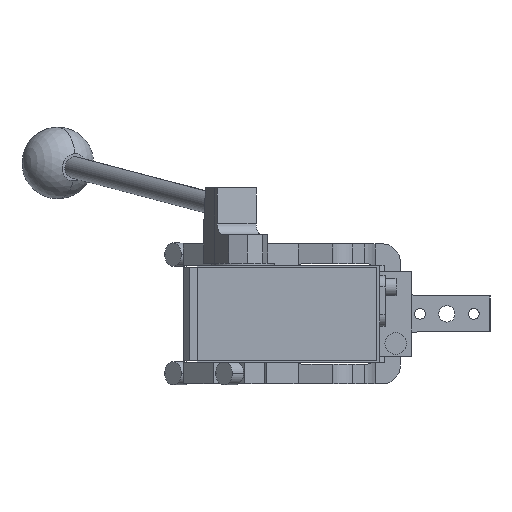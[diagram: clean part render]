
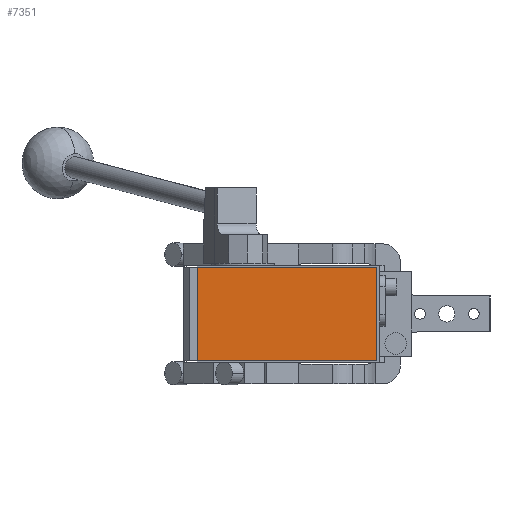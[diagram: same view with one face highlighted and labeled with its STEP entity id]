
A CAD part, front view. The second image highlights one B-rep face of the part: STEP entity #7351.
In plain terms, the highlighted planar face has unit normal (0, -1, 0).
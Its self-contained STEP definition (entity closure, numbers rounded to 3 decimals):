
#184 = LINE ( 'NONE', #2658, #13500 ) ;
#526 = ORIENTED_EDGE ( 'NONE', *, *, #8271, .T. ) ;
#1024 = DIRECTION ( 'NONE',  ( 1., 0., 0. ) ) ;
#1027 = CARTESIAN_POINT ( 'NONE',  ( -19., -286.5, 26. ) ) ;
#2658 = CARTESIAN_POINT ( 'NONE',  ( -19., -286.5, 26. ) ) ;
#2806 = CARTESIAN_POINT ( 'NONE',  ( 0., -286.5, 0. ) ) ;
#4075 = EDGE_CURVE ( 'NONE', #6944, #4376, #5616, .T. ) ;
#4171 = CARTESIAN_POINT ( 'NONE',  ( 81., -286.5, -26. ) ) ;
#4376 = VERTEX_POINT ( 'NONE', #5425 ) ;
#4424 = CARTESIAN_POINT ( 'NONE',  ( -19., -286.5, -26. ) ) ;
#4971 = VECTOR ( 'NONE', #1024, 1000. ) ;
#5205 = FACE_OUTER_BOUND ( 'NONE', #10231, .T. ) ;
#5425 = CARTESIAN_POINT ( 'NONE',  ( 81., -286.5, 26. ) ) ;
#5616 = LINE ( 'NONE', #11297, #14981 ) ;
#6123 = CARTESIAN_POINT ( 'NONE',  ( -19., -286.5, 26. ) ) ;
#6424 = EDGE_CURVE ( 'NONE', #4376, #14206, #184, .T. ) ;
#6796 = CARTESIAN_POINT ( 'NONE',  ( -19., -286.5, -26. ) ) ;
#6798 = LINE ( 'NONE', #4424, #4971 ) ;
#6944 = VERTEX_POINT ( 'NONE', #4171 ) ;
#7351 = ADVANCED_FACE ( 'NONE', ( #5205 ), #10736, .T. ) ;
#7477 = DIRECTION ( 'NONE',  ( 0., -1., 0. ) ) ;
#7892 = DIRECTION ( 'NONE',  ( 0., 0., 1. ) ) ;
#8271 = EDGE_CURVE ( 'NONE', #14206, #11234, #9513, .T. ) ;
#8923 = EDGE_CURVE ( 'NONE', #11234, #6944, #6798, .T. ) ;
#9513 = LINE ( 'NONE', #6123, #10858 ) ;
#9678 = AXIS2_PLACEMENT_3D ( 'NONE', #2806, #7477, #11888 ) ;
#10231 = EDGE_LOOP ( 'NONE', ( #526, #11184, #14850, #14777 ) ) ;
#10711 = DIRECTION ( 'NONE',  ( 0., 0., -1. ) ) ;
#10736 = PLANE ( 'NONE',  #9678 ) ;
#10858 = VECTOR ( 'NONE', #10711, 1000. ) ;
#11184 = ORIENTED_EDGE ( 'NONE', *, *, #8923, .T. ) ;
#11234 = VERTEX_POINT ( 'NONE', #6796 ) ;
#11297 = CARTESIAN_POINT ( 'NONE',  ( 81., -286.5, 26. ) ) ;
#11888 = DIRECTION ( 'NONE',  ( 0., 0., -1. ) ) ;
#13500 = VECTOR ( 'NONE', #14174, 1000. ) ;
#14174 = DIRECTION ( 'NONE',  ( -1., 0., 0. ) ) ;
#14206 = VERTEX_POINT ( 'NONE', #1027 ) ;
#14777 = ORIENTED_EDGE ( 'NONE', *, *, #6424, .T. ) ;
#14850 = ORIENTED_EDGE ( 'NONE', *, *, #4075, .T. ) ;
#14981 = VECTOR ( 'NONE', #7892, 1000. ) ;
